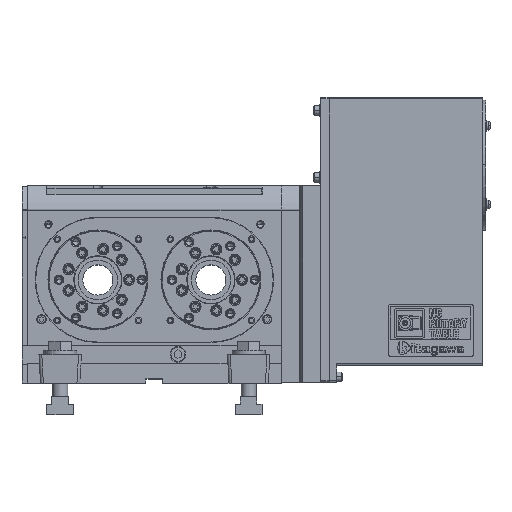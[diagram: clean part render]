
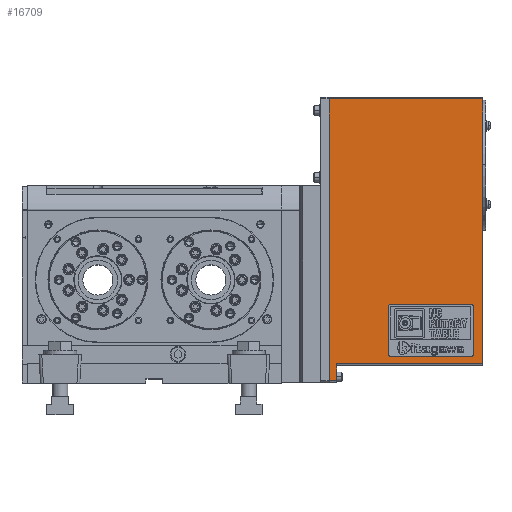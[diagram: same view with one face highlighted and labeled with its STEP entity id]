
A CAD part, top view. The second image highlights one B-rep face of the part: STEP entity #16709.
In plain terms, the highlighted planar face has unit normal (0, 0, 1).
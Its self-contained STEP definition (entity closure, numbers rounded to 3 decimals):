
#825 = ORIENTED_EDGE ( 'NONE', *, *, #8317, .F. ) ;
#2902 = FACE_OUTER_BOUND ( 'NONE', #30036, .T. ) ;
#5561 = LINE ( 'NONE', #30898, #16797 ) ;
#7439 = VERTEX_POINT ( 'NONE', #48614 ) ;
#7616 = VERTEX_POINT ( 'NONE', #10780 ) ;
#8317 = EDGE_CURVE ( 'NONE', #80195, #7439, #17947, .T. ) ;
#10116 = CARTESIAN_POINT ( 'NONE',  ( 8., 20., 0. ) ) ;
#10126 = VERTEX_POINT ( 'NONE', #85222 ) ;
#10780 = CARTESIAN_POINT ( 'NONE',  ( 8., 2., 0. ) ) ;
#12050 = CARTESIAN_POINT ( 'NONE',  ( 8., 2., 0. ) ) ;
#12603 = ORIENTED_EDGE ( 'NONE', *, *, #53883, .T. ) ;
#13048 = DIRECTION ( 'NONE',  ( 0., -1., 0. ) ) ;
#14458 = VECTOR ( 'NONE', #93326, 1000. ) ;
#16709 = ADVANCED_FACE ( 'NONE', ( #2902 ), #68947, .F. ) ;
#16797 = VECTOR ( 'NONE', #71417, 1000. ) ;
#17947 = LINE ( 'NONE', #101032, #36700 ) ;
#21487 = VECTOR ( 'NONE', #13048, 1000. ) ;
#24142 = ORIENTED_EDGE ( 'NONE', *, *, #54860, .T. ) ;
#28134 = DIRECTION ( 'NONE',  ( 1., 0., 0. ) ) ;
#30036 = EDGE_LOOP ( 'NONE', ( #825, #85835, #51849, #12603, #101004, #24142 ) ) ;
#30740 = VECTOR ( 'NONE', #28134, 1000. ) ;
#30898 = CARTESIAN_POINT ( 'NONE',  ( 8., 0., 0. ) ) ;
#34976 = EDGE_CURVE ( 'NONE', #42854, #7616, #5561, .T. ) ;
#36700 = VECTOR ( 'NONE', #68514, 1000. ) ;
#38994 = CARTESIAN_POINT ( 'NONE',  ( 163., 301., 0. ) ) ;
#40076 = CARTESIAN_POINT ( 'NONE',  ( 0., 301., 0. ) ) ;
#42266 = DIRECTION ( 'NONE',  ( 1., 0., 0. ) ) ;
#42854 = VERTEX_POINT ( 'NONE', #87692 ) ;
#45189 = CARTESIAN_POINT ( 'NONE',  ( 8., 301., 0. ) ) ;
#48614 = CARTESIAN_POINT ( 'NONE',  ( 163., 20., 0. ) ) ;
#51849 = ORIENTED_EDGE ( 'NONE', *, *, #76145, .T. ) ;
#52058 = LINE ( 'NONE', #12050, #30740 ) ;
#53230 = DIRECTION ( 'NONE',  ( -1., 0., 0. ) ) ;
#53883 = EDGE_CURVE ( 'NONE', #10126, #7616, #52058, .T. ) ;
#54860 = EDGE_CURVE ( 'NONE', #42854, #7439, #80368, .T. ) ;
#59162 = VECTOR ( 'NONE', #42266, 1000. ) ;
#60931 = CARTESIAN_POINT ( 'NONE',  ( 0., 0., 0. ) ) ;
#68514 = DIRECTION ( 'NONE',  ( 0., -1., 0. ) ) ;
#68947 = PLANE ( 'NONE',  #74398 ) ;
#71417 = DIRECTION ( 'NONE',  ( 0., -1., 0. ) ) ;
#74398 = AXIS2_PLACEMENT_3D ( 'NONE', #76929, #101127, #53230 ) ;
#76145 = EDGE_CURVE ( 'NONE', #97254, #10126, #80220, .T. ) ;
#76929 = CARTESIAN_POINT ( 'NONE',  ( 8., 0., 0. ) ) ;
#80195 = VERTEX_POINT ( 'NONE', #38994 ) ;
#80220 = LINE ( 'NONE', #60931, #21487 ) ;
#80368 = LINE ( 'NONE', #10116, #59162 ) ;
#80693 = LINE ( 'NONE', #45189, #14458 ) ;
#85222 = CARTESIAN_POINT ( 'NONE',  ( 0., 2., 0. ) ) ;
#85835 = ORIENTED_EDGE ( 'NONE', *, *, #94537, .T. ) ;
#87692 = CARTESIAN_POINT ( 'NONE',  ( 8., 20., 0. ) ) ;
#93326 = DIRECTION ( 'NONE',  ( -1., 0., 0. ) ) ;
#94537 = EDGE_CURVE ( 'NONE', #80195, #97254, #80693, .T. ) ;
#97254 = VERTEX_POINT ( 'NONE', #40076 ) ;
#101004 = ORIENTED_EDGE ( 'NONE', *, *, #34976, .F. ) ;
#101032 = CARTESIAN_POINT ( 'NONE',  ( 163., 303., 0. ) ) ;
#101127 = DIRECTION ( 'NONE',  ( 0., 0., -1. ) ) ;
